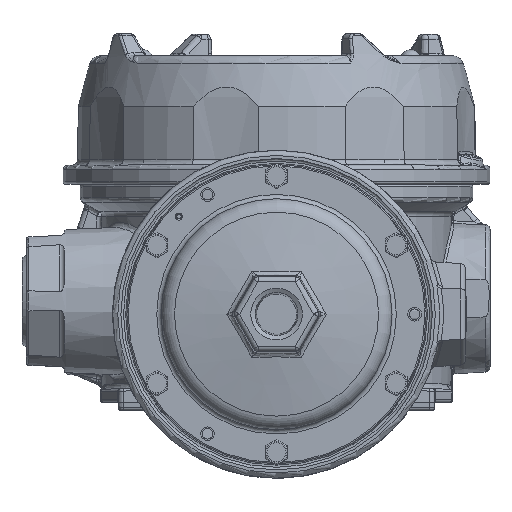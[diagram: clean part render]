
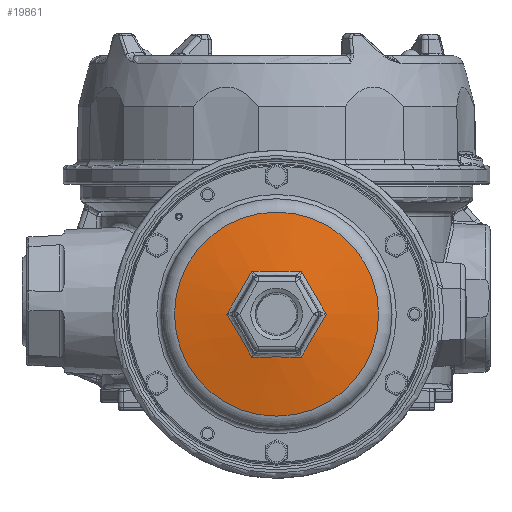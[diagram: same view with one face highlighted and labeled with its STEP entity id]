
A CAD part, top view. The second image highlights one B-rep face of the part: STEP entity #19861.
In plain terms, the highlighted conical face has half-angle 80.051 degrees and reference radius 11.113 mm.
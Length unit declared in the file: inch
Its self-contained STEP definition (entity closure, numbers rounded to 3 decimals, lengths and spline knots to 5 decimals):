
#11 = CARTESIAN_POINT ( 'NONE',  ( 0.09481, 0.4896, 5.13547 ) ) ;
#470 = VERTEX_POINT ( 'NONE', #38324 ) ;
#1217 = CARTESIAN_POINT ( 'NONE',  ( 0.3766, -0.3269, 5.13547 ) ) ;
#1706 = CARTESIAN_POINT ( 'NONE',  ( 0.28375, -0.49147, 5.12181 ) ) ;
#1839 = ORIENTED_EDGE ( 'NONE', *, *, #25614, .F. ) ;
#2172 = CARTESIAN_POINT ( 'NONE',  ( -0.47141, -0.1627, 5.13547 ) ) ;
#3752 = CARTESIAN_POINT ( 'NONE',  ( -0.09481, 0.4896, 5.13547 ) ) ;
#4043 = VERTEX_POINT ( 'NONE', #40534 ) ;
#4655 = CARTESIAN_POINT ( 'NONE',  ( 0.5194, 0.08123, 5.13025 ) ) ;
#4876 = EDGE_CURVE ( 'NONE', #17734, #28395, #9918, .T. ) ;
#5459 = CARTESIAN_POINT ( 'NONE',  ( 0.47141, -0.1627, 5.13547 ) ) ;
#5779 = B_SPLINE_CURVE_WITH_KNOTS ( 'NONE', 3,
 ( #20463, #27930, #20698, #2172, #9680, #43432 ),
 .UNSPECIFIED., .F., .F.,
 ( 4, 2, 4 ),
 ( 0., 0.00722, 0.01443 ),
 .UNSPECIFIED. ) ;
#5854 = FACE_OUTER_BOUND ( 'NONE', #25201, .T. ) ;
#6936 = ORIENTED_EDGE ( 'NONE', *, *, #4876, .T. ) ;
#7278 = AXIS2_PLACEMENT_3D ( 'NONE', #16517, #46999, #47237 ) ;
#9680 = CARTESIAN_POINT ( 'NONE',  ( -0.5194, -0.08123, 5.13025 ) ) ;
#9918 = B_SPLINE_CURVE_WITH_KNOTS ( 'NONE', 3,
 ( #16022, #45782, #19526, #27269, #11549, #30528 ),
 .UNSPECIFIED., .F., .F.,
 ( 4, 2, 4 ),
 ( 0., 0.00722, 0.01443 ),
 .UNSPECIFIED. ) ;
#11201 = EDGE_CURVE ( 'NONE', #11555, #4043, #13053, .T. ) ;
#11549 = CARTESIAN_POINT ( 'NONE',  ( -0.18936, -0.49043, 5.13025 ) ) ;
#11555 = VERTEX_POINT ( 'NONE', #23848 ) ;
#12663 = CARTESIAN_POINT ( 'NONE',  ( -0.47141, 0.1627, 5.13547 ) ) ;
#12847 = B_SPLINE_CURVE_WITH_KNOTS ( 'NONE', 3,
 ( #24148, #38882, #46392, #35885, #4655, #15892 ),
 .UNSPECIFIED., .F., .F.,
 ( 4, 2, 4 ),
 ( 0., 0.00722, 0.01443 ),
 .UNSPECIFIED. ) ;
#12899 = CARTESIAN_POINT ( 'NONE',  ( -0.28375, 0.49147, 5.12181 ) ) ;
#13053 = B_SPLINE_CURVE_WITH_KNOTS ( 'NONE', 3,
 ( #46874, #20145, #12663, #20406, #16388, #12899 ),
 .UNSPECIFIED., .F., .F.,
 ( 4, 2, 4 ),
 ( 0., 0.00722, 0.01443 ),
 .UNSPECIFIED. ) ;
#13125 = B_SPLINE_CURVE_WITH_KNOTS ( 'NONE', 3,
 ( #35699, #31704, #5459, #1217, #16927, #1706 ),
 .UNSPECIFIED., .F., .F.,
 ( 4, 2, 4 ),
 ( 0., 0.00722, 0.01443 ),
 .UNSPECIFIED. ) ;
#14569 = DIRECTION ( 'NONE',  ( 0.5, 0.866, 0. ) ) ;
#15318 = CARTESIAN_POINT ( 'NONE',  ( 0.28375, -0.49147, 5.12181 ) ) ;
#15892 = CARTESIAN_POINT ( 'NONE',  ( 0.5675, 0., 5.12181 ) ) ;
#16022 = CARTESIAN_POINT ( 'NONE',  ( 0.28375, -0.49147, 5.12181 ) ) ;
#16305 = ORIENTED_EDGE ( 'NONE', *, *, #31617, .T. ) ;
#16388 = CARTESIAN_POINT ( 'NONE',  ( -0.33005, 0.4092, 5.13025 ) ) ;
#16517 = CARTESIAN_POINT ( 'NONE',  ( 0., 0., 5.01679 ) ) ;
#16927 = CARTESIAN_POINT ( 'NONE',  ( 0.33005, -0.4092, 5.13025 ) ) ;
#17734 = VERTEX_POINT ( 'NONE', #15318 ) ;
#17971 = AXIS2_PLACEMENT_3D ( 'NONE', #33544, #44825, #14569 ) ;
#19242 = CARTESIAN_POINT ( 'NONE',  ( 0.18936, 0.49043, 5.13025 ) ) ;
#19526 = CARTESIAN_POINT ( 'NONE',  ( 0.09481, -0.4896, 5.13547 ) ) ;
#19861 = ADVANCED_FACE ( 'NONE', ( #29575, #5854 ), #22765, .T. ) ;
#20145 = CARTESIAN_POINT ( 'NONE',  ( -0.5194, 0.08123, 5.13025 ) ) ;
#20359 = ORIENTED_EDGE ( 'NONE', *, *, #28524, .T. ) ;
#20406 = CARTESIAN_POINT ( 'NONE',  ( -0.3766, 0.3269, 5.13547 ) ) ;
#20463 = CARTESIAN_POINT ( 'NONE',  ( -0.28375, -0.49147, 5.12181 ) ) ;
#20561 = EDGE_CURVE ( 'NONE', #28395, #11555, #5779, .T. ) ;
#20698 = CARTESIAN_POINT ( 'NONE',  ( -0.3766, -0.3269, 5.13547 ) ) ;
#21481 = CARTESIAN_POINT ( 'NONE',  ( 0.28375, 0.49147, 5.12181 ) ) ;
#22765 = CONICAL_SURFACE ( 'NONE', #17971, 0.4375, 1.397 ) ;
#23353 = CARTESIAN_POINT ( 'NONE',  ( 0.5831, 1.00996, 5.01679 ) ) ;
#23473 = VERTEX_POINT ( 'NONE', #21481 ) ;
#23848 = CARTESIAN_POINT ( 'NONE',  ( -0.5675, 0., 5.12181 ) ) ;
#24148 = CARTESIAN_POINT ( 'NONE',  ( 0.28375, 0.49147, 5.12181 ) ) ;
#24292 = EDGE_LOOP ( 'NONE', ( #6936, #26795, #24824, #36796, #16305, #20359 ) ) ;
#24824 = ORIENTED_EDGE ( 'NONE', *, *, #11201, .T. ) ;
#25201 = EDGE_LOOP ( 'NONE', ( #1839 ) ) ;
#25377 = B_SPLINE_CURVE_WITH_KNOTS ( 'NONE', 3,
 ( #34478, #29991, #3752, #11, #19242, #37983 ),
 .UNSPECIFIED., .F., .F.,
 ( 4, 2, 4 ),
 ( 0., 0.00722, 0.01443 ),
 .UNSPECIFIED. ) ;
#25614 = EDGE_CURVE ( 'NONE', #38589, #38589, #26436, .T. ) ;
#26436 = CIRCLE ( 'NONE', #7278, 1.1662 ) ;
#26795 = ORIENTED_EDGE ( 'NONE', *, *, #20561, .T. ) ;
#27269 = CARTESIAN_POINT ( 'NONE',  ( -0.09481, -0.4896, 5.13547 ) ) ;
#27930 = CARTESIAN_POINT ( 'NONE',  ( -0.33005, -0.4092, 5.13025 ) ) ;
#28395 = VERTEX_POINT ( 'NONE', #42691 ) ;
#28524 = EDGE_CURVE ( 'NONE', #470, #17734, #13125, .T. ) ;
#29575 = FACE_BOUND ( 'NONE', #24292, .T. ) ;
#29991 = CARTESIAN_POINT ( 'NONE',  ( -0.18936, 0.49043, 5.13025 ) ) ;
#30528 = CARTESIAN_POINT ( 'NONE',  ( -0.28375, -0.49147, 5.12181 ) ) ;
#31617 = EDGE_CURVE ( 'NONE', #23473, #470, #12847, .T. ) ;
#31704 = CARTESIAN_POINT ( 'NONE',  ( 0.5194, -0.08123, 5.13025 ) ) ;
#33544 = CARTESIAN_POINT ( 'NONE',  ( 0., 0., 5.14461 ) ) ;
#34478 = CARTESIAN_POINT ( 'NONE',  ( -0.28375, 0.49147, 5.12181 ) ) ;
#35699 = CARTESIAN_POINT ( 'NONE',  ( 0.5675, 0., 5.12181 ) ) ;
#35885 = CARTESIAN_POINT ( 'NONE',  ( 0.47141, 0.1627, 5.13547 ) ) ;
#36796 = ORIENTED_EDGE ( 'NONE', *, *, #43305, .T. ) ;
#37983 = CARTESIAN_POINT ( 'NONE',  ( 0.28375, 0.49147, 5.12181 ) ) ;
#38324 = CARTESIAN_POINT ( 'NONE',  ( 0.5675, 0., 5.12181 ) ) ;
#38589 = VERTEX_POINT ( 'NONE', #23353 ) ;
#38882 = CARTESIAN_POINT ( 'NONE',  ( 0.33005, 0.4092, 5.13025 ) ) ;
#40534 = CARTESIAN_POINT ( 'NONE',  ( -0.28375, 0.49147, 5.12181 ) ) ;
#42691 = CARTESIAN_POINT ( 'NONE',  ( -0.28375, -0.49147, 5.12181 ) ) ;
#43305 = EDGE_CURVE ( 'NONE', #4043, #23473, #25377, .T. ) ;
#43432 = CARTESIAN_POINT ( 'NONE',  ( -0.5675, 0., 5.12181 ) ) ;
#44825 = DIRECTION ( 'NONE',  ( 0., 0., -1. ) ) ;
#45782 = CARTESIAN_POINT ( 'NONE',  ( 0.18936, -0.49043, 5.13025 ) ) ;
#46392 = CARTESIAN_POINT ( 'NONE',  ( 0.3766, 0.3269, 5.13547 ) ) ;
#46874 = CARTESIAN_POINT ( 'NONE',  ( -0.5675, 0., 5.12181 ) ) ;
#46999 = DIRECTION ( 'NONE',  ( 0., 0., -1. ) ) ;
#47237 = DIRECTION ( 'NONE',  ( 0.5, 0.866, 0. ) ) ;
